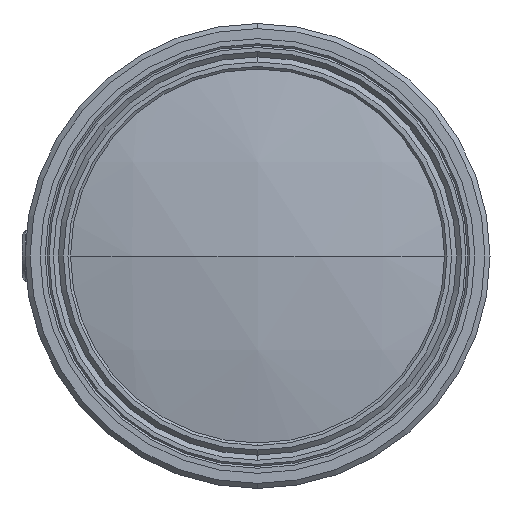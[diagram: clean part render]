
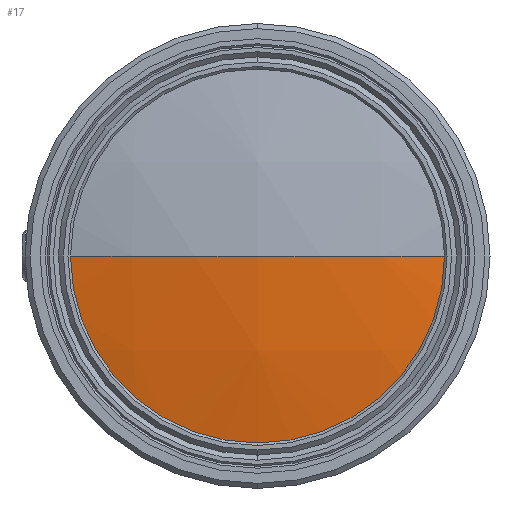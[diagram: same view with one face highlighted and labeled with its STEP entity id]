
A CAD part, left-side view. The second image highlights one B-rep face of the part: STEP entity #17.
In plain terms, the highlighted spherical face has radius 82 mm.
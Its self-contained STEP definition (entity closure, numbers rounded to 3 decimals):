
#17 = ADVANCED_FACE ( 'NONE', ( #2085 ), #813, .T. ) ;
#69 = CARTESIAN_POINT ( 'NONE',  ( -233.806, -18.5, 0. ) ) ;
#88 = CARTESIAN_POINT ( 'NONE',  ( -233.806, 0., 0. ) ) ;
#132 = DIRECTION ( 'NONE',  ( 0., 0., 1. ) ) ;
#302 = AXIS2_PLACEMENT_3D ( 'NONE', #919, #1381, #2258 ) ;
#361 = VERTEX_POINT ( 'NONE', #1904 ) ;
#387 = EDGE_CURVE ( 'NONE', #1816, #361, #1277, .T. ) ;
#389 = CIRCLE ( 'NONE', #535, 82. ) ;
#445 = DIRECTION ( 'NONE',  ( 0., 0., -1. ) ) ;
#472 = VERTEX_POINT ( 'NONE', #69 ) ;
#535 = AXIS2_PLACEMENT_3D ( 'NONE', #2939, #445, #2661 ) ;
#554 = AXIS2_PLACEMENT_3D ( 'NONE', #88, #569, #1673 ) ;
#569 = DIRECTION ( 'NONE',  ( -1., 0., 0. ) ) ;
#813 = SPHERICAL_SURFACE ( 'NONE', #2671, 82. ) ;
#863 = CARTESIAN_POINT ( 'NONE',  ( -153.92, 0., 0. ) ) ;
#879 = EDGE_CURVE ( 'NONE', #472, #1642, #389, .T. ) ;
#919 = CARTESIAN_POINT ( 'NONE',  ( -233.806, 0., 0. ) ) ;
#940 = CARTESIAN_POINT ( 'NONE',  ( -233.806, 18.5, 0. ) ) ;
#1045 = EDGE_LOOP ( 'NONE', ( #1950, #1249, #2664, #2763 ) ) ;
#1101 = DIRECTION ( 'NONE',  ( 0., 0., -1. ) ) ;
#1249 = ORIENTED_EDGE ( 'NONE', *, *, #1326, .T. ) ;
#1277 = CIRCLE ( 'NONE', #554, 18.5 ) ;
#1326 = EDGE_CURVE ( 'NONE', #361, #472, #2780, .T. ) ;
#1346 = CARTESIAN_POINT ( 'NONE',  ( -235.92, 0., 0. ) ) ;
#1381 = DIRECTION ( 'NONE',  ( -1., 0., 0. ) ) ;
#1642 = VERTEX_POINT ( 'NONE', #1346 ) ;
#1673 = DIRECTION ( 'NONE',  ( 0., 0., 1. ) ) ;
#1718 = DIRECTION ( 'NONE',  ( 1., 0., 0. ) ) ;
#1816 = VERTEX_POINT ( 'NONE', #940 ) ;
#1904 = CARTESIAN_POINT ( 'NONE',  ( -233.806, 0., -18.5 ) ) ;
#1927 = CARTESIAN_POINT ( 'NONE',  ( -153.92, 0., 0. ) ) ;
#1950 = ORIENTED_EDGE ( 'NONE', *, *, #387, .T. ) ;
#2079 = EDGE_CURVE ( 'NONE', #1816, #1642, #2395, .T. ) ;
#2085 = FACE_OUTER_BOUND ( 'NONE', #1045, .T. ) ;
#2258 = DIRECTION ( 'NONE',  ( 0., 0., 1. ) ) ;
#2395 = CIRCLE ( 'NONE', #2582, 82. ) ;
#2582 = AXIS2_PLACEMENT_3D ( 'NONE', #1927, #132, #1718 ) ;
#2661 = DIRECTION ( 'NONE',  ( 0., 1., 0. ) ) ;
#2664 = ORIENTED_EDGE ( 'NONE', *, *, #879, .T. ) ;
#2671 = AXIS2_PLACEMENT_3D ( 'NONE', #863, #1101, #2676 ) ;
#2676 = DIRECTION ( 'NONE',  ( 0., 1., 0. ) ) ;
#2763 = ORIENTED_EDGE ( 'NONE', *, *, #2079, .F. ) ;
#2780 = CIRCLE ( 'NONE', #302, 18.5 ) ;
#2939 = CARTESIAN_POINT ( 'NONE',  ( -153.92, 0., 0. ) ) ;
